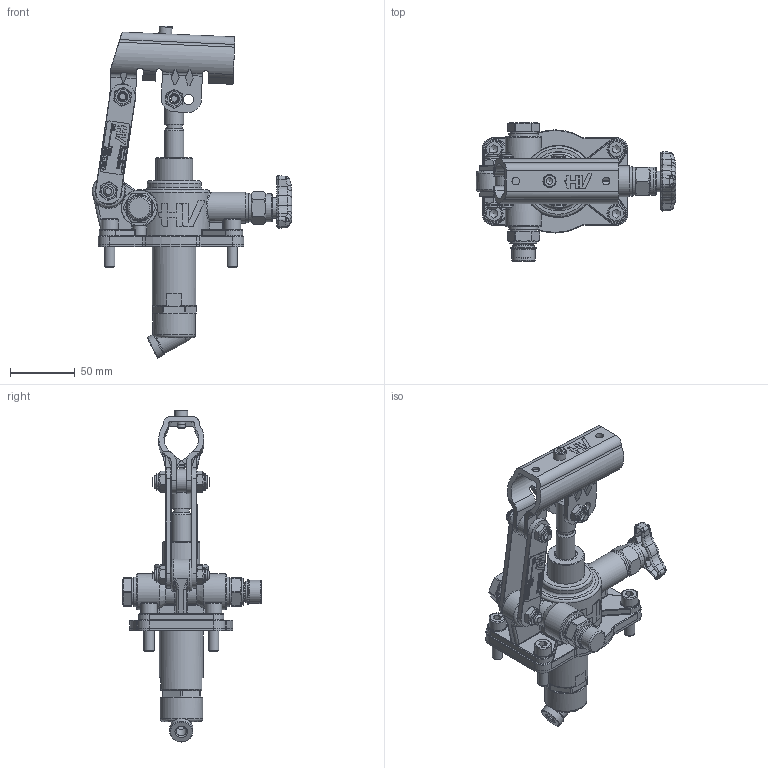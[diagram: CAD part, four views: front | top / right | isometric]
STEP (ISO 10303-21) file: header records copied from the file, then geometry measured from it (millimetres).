
FILE_DESCRIPTION(/* description */ (''),/* implementation_level */ '2;1');
FILE_NAME(/* name */ '6050.6000.stp',/* time_stamp */ '2026-02-12T14:30:29+01:00',/* author */ ('christian.scardovi'),/* organization */ (''),/* preprocessor_version */ 'ST-DEVELOPER v20.1',/* originating_system */ 'Autodesk Inventor 2026',/* authorisation */ '');
FILE_SCHEMA (('AUTOMOTIVE_DESIGN { 1 0 10303 214 3 1 1 }'));
Products named in the file (1): 6050.6000
Bounding box: 154.5 x 107.5 x 257.36 mm (x, y, z)
Volume: 375224.9 mm3; surface area: 165438.1 mm2
Topology: 41 solids, 41 shells, 1889 faces, 4655 edges, 2939 vertices
Faces by surface type: plane 819, cylinder 451, bspline 257, torus 178, cone 167, sphere 17
Full cylindrical faces by diameter (mm): 4 x3, 4.917 x1, 5 x4, 6 x4, 6.5 x2, 6.647 x6, 7.5 x4, 8 x24, 8.1 x1, 8.376 x1, 8.6 x4, 9 x2, 9.2 x1, 10 x3, 10.376 x1, 11.05 x6, 12 x5, 13 x4, 13.2 x1, 14.5 x5, 14.6 x1, 14.95 x3, 15 x7, 15.6 x1, 16 x6, 16.5 x1, 16.6 x3, 18 x12, 19.4 x1, 20 x4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
Entity records: 67698 total; most frequent: CARTESIAN_POINT 22238, ORIENTED_EDGE 9256, DIRECTION 8634, EDGE_CURVE 4628, AXIS2_PLACEMENT_3D 3171, VERTEX_POINT 2939, LINE 2292, VECTOR 2292
